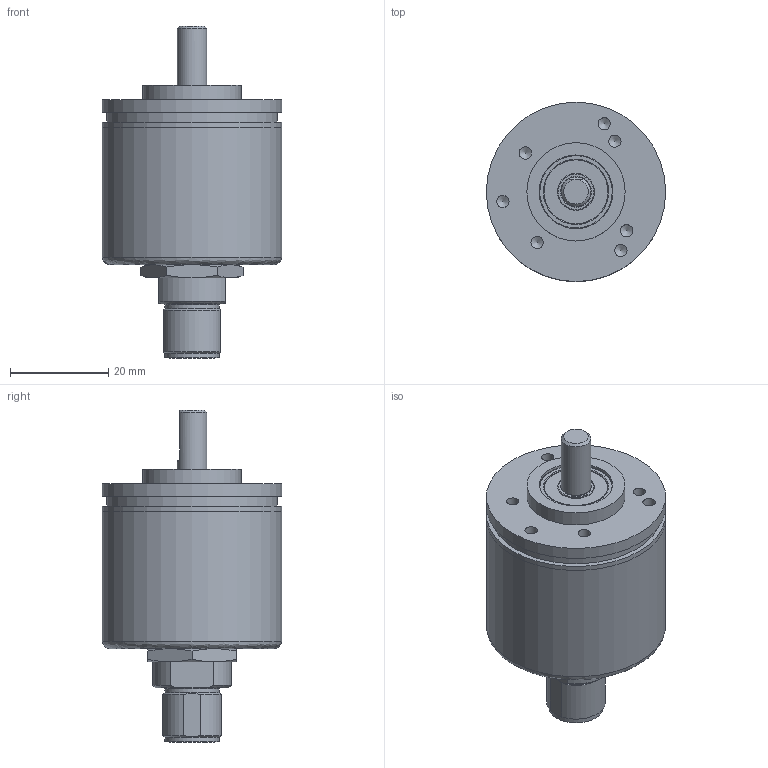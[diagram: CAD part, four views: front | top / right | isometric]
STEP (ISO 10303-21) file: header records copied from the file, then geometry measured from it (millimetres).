
FILE_DESCRIPTION (( 'STEP AP203' ), '1' );
FILE_NAME ('8.3610.33X3.XXXX.STEP', '2013-04-24T15:04:57', ( 'Hodot' ), ( '' ), 'SwSTEP 2.0', 'SolidWorks 2012', '' );
FILE_SCHEMA (( 'CONFIG_CONTROL_DESIGN' ));
Length unit declared in the file: millimetre
Products named in the file (1): 8.3610.33X3.XXXX
Bounding box: 36.5 x 36.5 x 67.55 mm (x, y, z)
Volume: 21073.4 mm3; surface area: 17463.3 mm2
Topology: 6 solids, 6 shells, 179 faces, 401 edges, 262 vertices
Faces by surface type: plane 62, cylinder 59, cone 38, bspline 20
Full cylindrical faces by diameter (mm): 1 x8, 1.25 x3, 2.05 x1, 2.5 x7, 4.02 x1, 6 x2, 7.5 x2, 8.5 x1, 9 x1, 11 x2, 12.5 x1, 13 x2, 13.8 x1, 14.7 x1, 15 x3, 20 x1, 32.3 x1, 34.4 x1, 34.5 x1, 34.6 x2, 36.5 x3
Entity records: 5854 total; most frequent: CARTESIAN_POINT 2443, DIRECTION 661, ORIENTED_EDGE 582, AXIS2_PLACEMENT_3D 300, EDGE_LOOP 299, EDGE_CURVE 291, FACE_OUTER_BOUND 243, VERTEX_POINT 236
